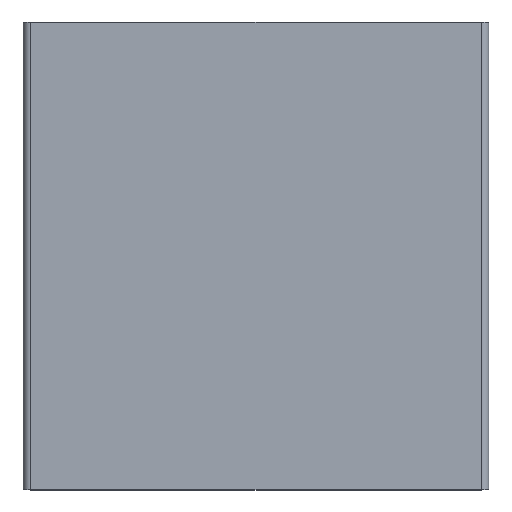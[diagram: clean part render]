
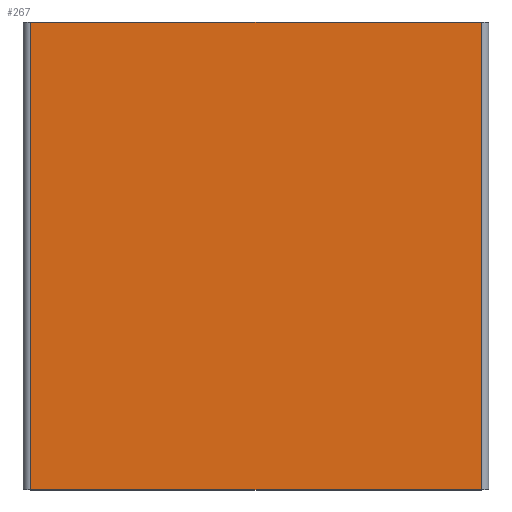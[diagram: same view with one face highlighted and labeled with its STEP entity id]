
A CAD part, top view. The second image highlights one B-rep face of the part: STEP entity #267.
In plain terms, the highlighted planar face has unit normal (0, 0, 1).
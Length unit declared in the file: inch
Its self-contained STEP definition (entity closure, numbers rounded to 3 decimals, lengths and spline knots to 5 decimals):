
#39=FACE_OUTER_BOUND('',#54,.T.);
#54=EDGE_LOOP('',(#223,#224,#225,#226));
#77=LINE('',#427,#105);
#82=LINE('',#443,#110);
#83=LINE('',#447,#111);
#84=LINE('',#448,#112);
#105=VECTOR('',#347,0.3937);
#110=VECTOR('',#364,0.3937);
#111=VECTOR('',#369,0.3937);
#112=VECTOR('',#370,0.3937);
#130=VERTEX_POINT('',#424);
#131=VERTEX_POINT('',#426);
#136=VERTEX_POINT('',#442);
#137=VERTEX_POINT('',#446);
#160=EDGE_CURVE('',#130,#131,#77,.T.);
#168=EDGE_CURVE('',#131,#136,#82,.T.);
#170=EDGE_CURVE('',#137,#130,#83,.T.);
#171=EDGE_CURVE('',#136,#137,#84,.T.);
#223=ORIENTED_EDGE('',*,*,#168,.F.);
#224=ORIENTED_EDGE('',*,*,#160,.F.);
#225=ORIENTED_EDGE('',*,*,#170,.F.);
#226=ORIENTED_EDGE('',*,*,#171,.F.);
#254=PLANE('',#302);
#267=ADVANCED_FACE('',(#39),#254,.T.);
#302=AXIS2_PLACEMENT_3D('',#445,#367,#368);
#347=DIRECTION('',(1.,0.,0.));
#364=DIRECTION('',(0.,-1.,0.));
#367=DIRECTION('center_axis',(0.,0.,1.));
#368=DIRECTION('ref_axis',(1.,0.,0.));
#369=DIRECTION('',(0.,1.,0.));
#370=DIRECTION('',(-1.,0.,0.));
#424=CARTESIAN_POINT('',(-0.969,2.01,0.5));
#426=CARTESIAN_POINT('',(0.969,2.01,0.5));
#427=CARTESIAN_POINT('',(1.,2.01,0.5));
#442=CARTESIAN_POINT('',(0.969,0.,0.5));
#443=CARTESIAN_POINT('',(0.969,0.,0.5));
#445=CARTESIAN_POINT('Origin',(-1.,0.,0.5));
#446=CARTESIAN_POINT('',(-0.969,0.,0.5));
#447=CARTESIAN_POINT('',(-0.969,0.,0.5));
#448=CARTESIAN_POINT('',(1.,0.,0.5));
